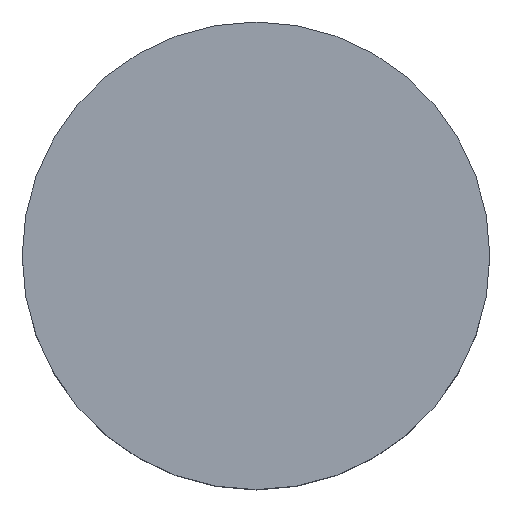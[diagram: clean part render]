
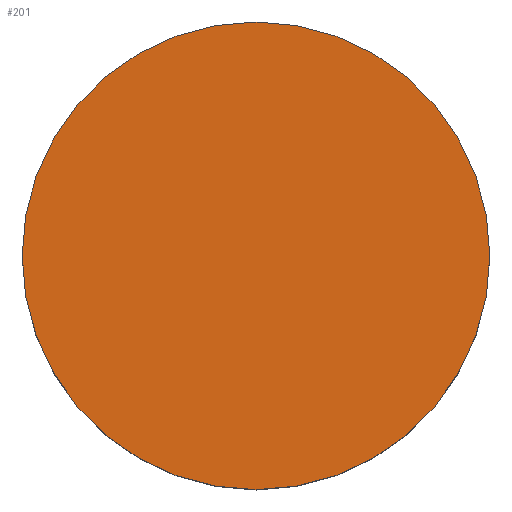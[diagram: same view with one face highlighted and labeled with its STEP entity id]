
A CAD part, top view. The second image highlights one B-rep face of the part: STEP entity #201.
In plain terms, the highlighted planar face has unit normal (0, 0, 1).
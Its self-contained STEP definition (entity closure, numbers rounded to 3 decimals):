
#201=ADVANCED_FACE('',(#257),#244,.T.);
#244=PLANE('',#710);
#257=FACE_OUTER_BOUND('',#289,.T.);
#289=EDGE_LOOP('',(#343,#344));
#343=ORIENTED_EDGE('',*,*,#565,.F.);
#344=ORIENTED_EDGE('',*,*,#566,.F.);
#511=VERTEX_POINT('',#1041);
#512=VERTEX_POINT('',#1042);
#565=EDGE_CURVE('',#511,#512,#649,.T.);
#566=EDGE_CURVE('',#512,#511,#650,.T.);
#649=CIRCLE('',#708,6.5);
#650=CIRCLE('',#709,6.5);
#708=AXIS2_PLACEMENT_3D('',#1040,#811,#812);
#709=AXIS2_PLACEMENT_3D('',#1043,#813,#814);
#710=AXIS2_PLACEMENT_3D('',#1044,#815,#816);
#811=DIRECTION('',(0.,0.,-1.));
#812=DIRECTION('',(0.,1.,0.));
#813=DIRECTION('',(0.,0.,-1.));
#814=DIRECTION('',(0.,-1.,0.));
#815=DIRECTION('',(0.,0.,1.));
#816=DIRECTION('',(0.,-1.,0.));
#1040=CARTESIAN_POINT('',(0.,0.,5.));
#1041=CARTESIAN_POINT('',(6.5,0.,5.));
#1042=CARTESIAN_POINT('',(-6.5,0.,5.));
#1043=CARTESIAN_POINT('',(0.,0.,5.));
#1044=CARTESIAN_POINT('',(0.,0.,5.));
